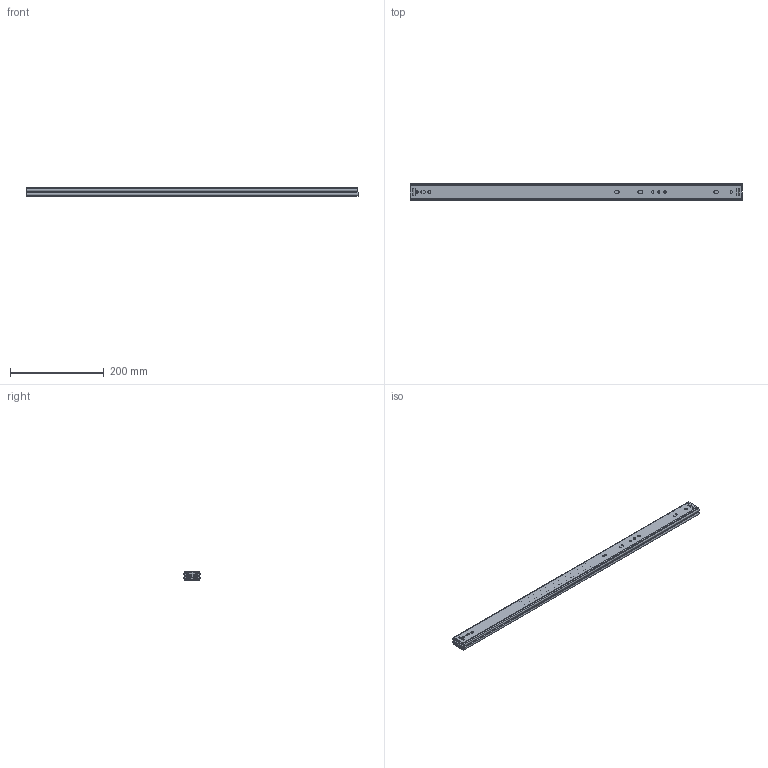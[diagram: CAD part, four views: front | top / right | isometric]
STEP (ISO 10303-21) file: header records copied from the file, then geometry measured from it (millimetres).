
FILE_DESCRIPTION(/* description */ (''),/* implementation_level */ '2;1');
FILE_NAME(/* name */ '\\NAS\db20\L6-700\DR_L6-700.stp',/* time_stamp */ '2017-10-11T11:07:01+09:00',/* author */ ('user'),/* organization */ (''),/* preprocessor_version */ 'ST-DEVELOPER v15.6',/* originating_system */ 'Autodesk Inventor 2015',/* authorisation */ '');
FILE_SCHEMA (('AUTOMOTIVE_DESIGN { 1 0 10303 214 3 1 1 }'));
Length unit declared in the file: millimetre
Products named in the file (4): DR_L6-700-B; DR_L6-700-P1; DR_L6-700-P2; DR_L6-700
Bounding box: 708 x 35.23 x 19.14 mm (x, y, z)
Volume: 161858.4 mm3; surface area: 242899 mm2
Topology: 8 solids, 8 shells, 606 faces, 1506 edges, 1044 vertices
Faces by surface type: plane 300, cylinder 178, sphere 128
Full cylindrical faces by diameter (mm): 5 x10
Entity records: 9298 total; most frequent: DIRECTION 1616, CARTESIAN_POINT 1583, ORIENTED_EDGE 1496, EDGE_CURVE 748, AXIS2_PLACEMENT_3D 555, VERTEX_POINT 522, LINE 506, VECTOR 506
